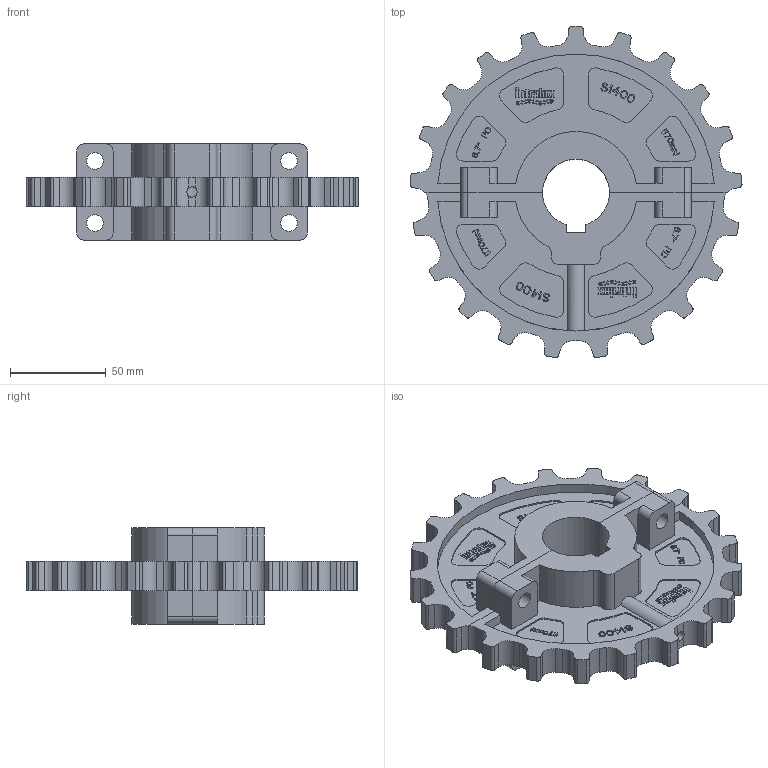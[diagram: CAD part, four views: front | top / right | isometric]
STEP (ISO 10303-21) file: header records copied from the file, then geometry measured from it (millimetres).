
FILE_DESCRIPTION((''),'2;1');
FILE_NAME('S1400_SPLIT_67_PILOT_ASM','2008-12-12T',('jmumphre'),(''),'PRO/ENGINEER BY PARAMETRIC TECHNOLOGY CORPORATION, 2008150','PRO/ENGINEER BY PARAMETRIC TECHNOLOGY CORPORATION, 2008150','');
FILE_SCHEMA(('CONFIG_CONTROL_DESIGN'));
Length unit declared in the file: inch
Products named in the file (3): S1400_SPLIT_67_PILOT_BOLT_AF0; S1400_SPLIT_67_PILOT_NUT_AF0; S1400_SPLIT_67_PILOT_ASM
Assembly tree (2 placements, depth 2):
  S1400_SPLIT_67_PILOT_ASM
    S1400_SPLIT_67_PILOT_BOLT_AF0
    S1400_SPLIT_67_PILOT_NUT_AF0
Bounding box: 173.6 x 173.14 x 50.29 mm (x, y, z)
Volume: 286772.4 mm3; surface area: 93301.6 mm2
Topology: 2 solids, 2 shells, 1837 faces, 5202 edges, 3468 vertices
Faces by surface type: plane 1398, cylinder 439
Entity records: 59368 total; most frequent: CARTESIAN_POINT 10636, ORIENTED_EDGE 10404, DIRECTION 9752, EDGE_CURVE 5202, VECTOR 4320, LINE 4320, VERTEX_POINT 3468, AXIS2_PLACEMENT_3D 2716
